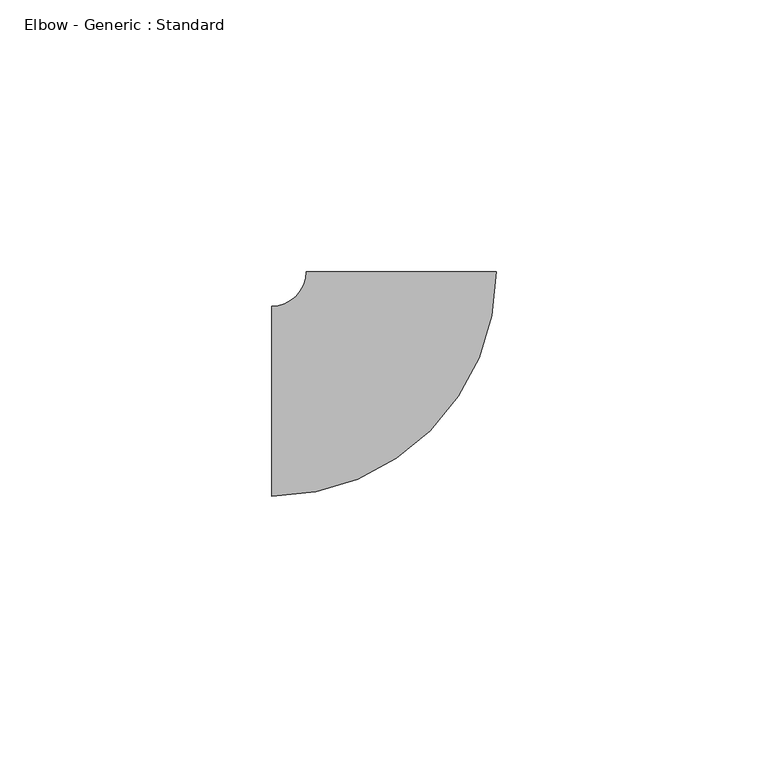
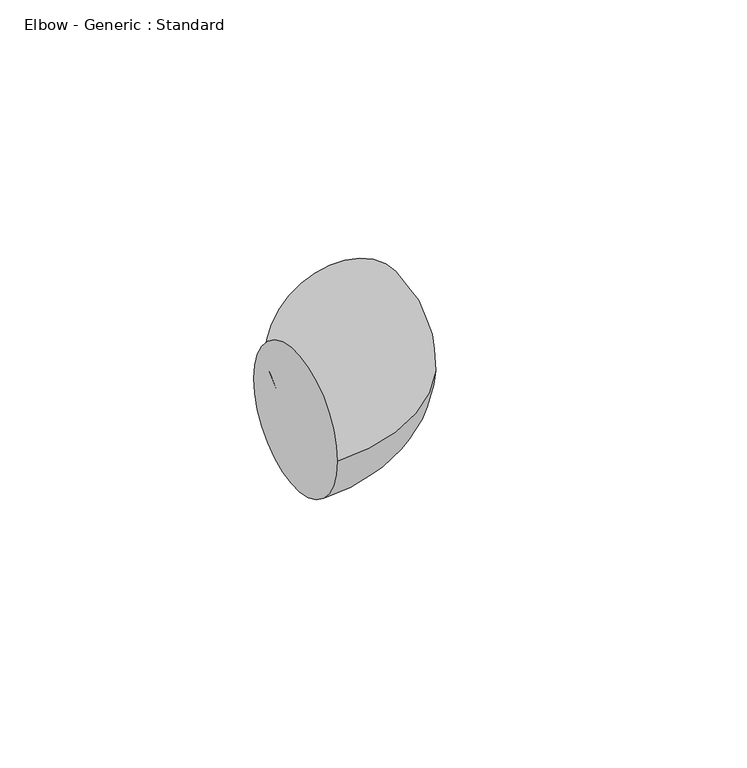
"""IFC4 building model written with IfcOpenShell, lengths in millimetres: pipe fitting geometry, Elbow - Generic : Standard."""

from ifc_helpers import new_model, si_unit, point, frame, origin, place, context, project, spatial, circle_curve, ellipse_curve, trimmed, source, transform, mapped, element, save
from ifc_brep_helpers import plane_surface, revolved_surface, advanced_brep


def elbow_generic_standard_698ab1fc(model_context):
    return source(origin(), model_context, "Body", "AdvancedBrep", [
        advanced_brep(
        [(-23.8375, -17.4875, 0.0), (-23.8375, 17.4875, 0.0), (17.4875, 23.8375, 0.0), (-17.4875, 23.8375, 0.0)],
        [
            (0, 1, circle_curve(frame((-23.8375, 0.0, 0.0), z_axis=(-1.0, 0.0, 0.0), x_axis=(0.0, 1.0, 0.0)), 17.4875)),
            (1, 0, circle_curve(frame((-23.8375, 0.0, 0.0), z_axis=(-1.0, 0.0, 0.0), x_axis=(0.0, 1.0, 0.0)), 17.4875)),
            (2, 3, circle_curve(frame((0.0, 23.8375, 0.0), z_axis=(0.0, 1.0, 0.0), x_axis=(-1.0, 0.0, 0.0)), 17.4875)),
            (3, 2, circle_curve(frame((0.0, 23.8375, 0.0), z_axis=(0.0, 1.0, 0.0), x_axis=(-1.0, 0.0, 0.0)), 17.4875)),
            (3, 1, circle_curve(frame((-23.8375, 23.8375, 0.0), z_axis=(0.0, 0.0, -1.0), x_axis=(0.0, -1.0, 0.0)), 6.35)),
            (0, 2, circle_curve(frame((-23.8375, 23.8375, 0.0), z_axis=(0.0, 0.0, 1.0), x_axis=(0.0, -1.0, 0.0)), 41.325)),
        ],
        [
            plane_surface(frame((-23.8375, 0.0, 0.0), z_axis=(-1.0, 0.0, 0.0), x_axis=(0.0, 0.0, 1.0))),
            plane_surface(frame((0.0, 23.8375, 0.0), z_axis=(0.0, 1.0, 0.0), x_axis=(0.0, 0.0, 1.0))),
            revolved_surface(trimmed(ellipse_curve(frame((-23.8375, 0.0, 0.0), z_axis=(-1.0, 0.0, 0.0), x_axis=(0.0, 1.0, 0.0)), 17.4875, 17.4875), [point((-23.8375, -17.4875, 0.0))], [point((-23.8375, 17.4875, 0.0))], True, "CARTESIAN"), (-23.8375, 23.8375, 0.0), (0.0, 0.0, 1.0)),
            revolved_surface(trimmed(ellipse_curve(frame((-23.8375, 0.0, 0.0), z_axis=(-1.0, 0.0, 0.0), x_axis=(0.0, 1.0, 0.0)), 17.4875, 17.4875), [point((-23.8375, 17.4875, 0.0))], [point((-23.8375, -17.4875, 0.0))], True, "CARTESIAN"), (-23.8375, 23.8375, 0.0), (0.0, 0.0, 1.0)),
        ],
        [
            (0, [[1, 2]]),
            (1, [[3, 4]]),
            (2, [[5, -1, 6, -4]]),
            (3, [[-6, -2, -5, -3]]),
        ],
    ),
    ])


if __name__ == "__main__":
    model = new_model("IFC4")
    model_context = context("Model", 3, world=origin())
    ifc_project = project(units=[si_unit("LENGTHUNIT", "METRE", prefix="MILLI")], contexts=[model_context])
    site = spatial("IfcSite", under=ifc_project)
    building = spatial("IfcBuilding", under=site)
    placement = place(None, origin())
    elbow_generic_standard_shape = elbow_generic_standard_698ab1fc(model_context)
    element("IfcPipeFitting", 1, ObjectType="Elbow - Generic : Standard", at=placement, inside=building, context=model_context, shape_type="MappedRepresentation", body=[
        mapped(elbow_generic_standard_shape, transform((0.0, 0.0, 0.0), x_axis=(1.0, 0.0, 0.0), y_axis=(0.0, 1.0, 0.0), z_axis=(0.0, 0.0, 1.0))),
    ])
    save(model, "model.ifc")
